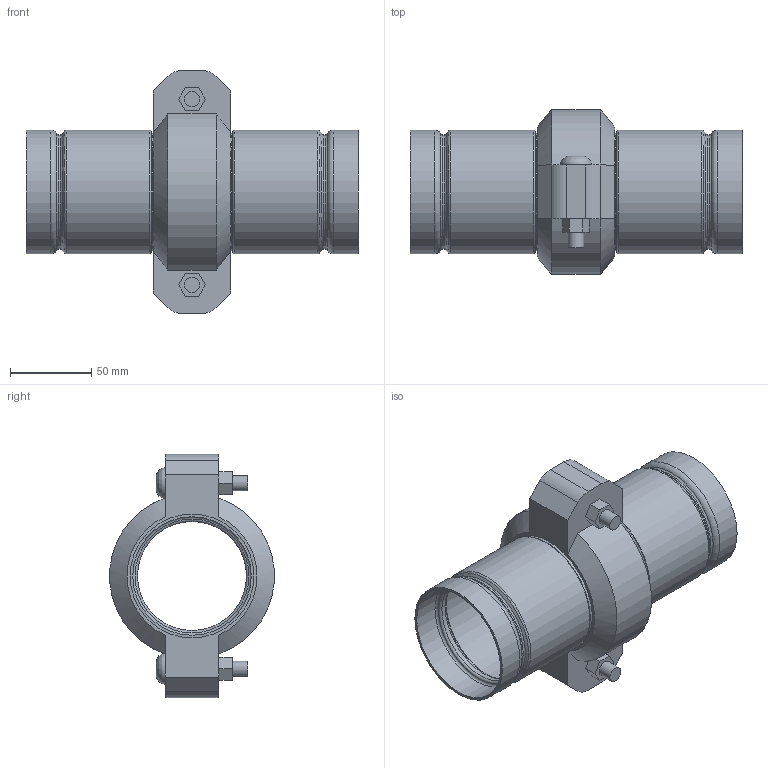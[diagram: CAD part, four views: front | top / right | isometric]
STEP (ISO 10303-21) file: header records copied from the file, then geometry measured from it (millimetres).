
FILE_DESCRIPTION(/* description */ ('VIC STRENGTHIN 100 EXPANSION JOINT 1 COUPLING COMPRESSED STYLE E155 (ST1)','CAx-IF Rec.Pracs.---Representation and Presentation of Product Manufacturing Information (PMI)---4.0---2014-10-13'),/* implementation_level */ '2;1');
FILE_NAME(/* name */ 'C:\Users\Vjadhav\AppData\Roaming\Autodesk\ApplicationPlugins\Victaulic.Temp\A42\Victaulic_SS-StrengThin 100_Expansion Joint_Compressed_1 Coupling_Style E155 (ST1)_02.5 (76.1) (65).stp',/* time_stamp */ '2021-07-23T12:24:06+06:00',/* author */ ('kkamble'),/* organization */ ('Victaulic'),/* preprocessor_version */ 'ST-DEVELOPER v17.2',/* originating_system */ 'Autodesk Inventor 2019',/* authorisation */ '');
FILE_SCHEMA (('AP242_MANAGED_MODEL_BASED_3D_ENGINEERING_MIM_LF { 1 0 10303 442 1 1 4 }'));
Length unit declared in the file: inch
Products named in the file (3): E155-02.5 (76.1); E494G-02.5 (76.1); 075-02.5 (76.1)
Assembly tree (3 placements, depth 2):
  E155-02.5 (76.1)
    E494G-02.5 (76.1)  x2
    075-02.5 (76.1)
Bounding box: 204.47 x 101.25 x 149.86 mm (x, y, z)
Volume: 300188.3 mm3; surface area: 144529.1 mm2
Topology: 3 solids, 5 shells, 121 faces, 353 edges, 254 vertices
Faces by surface type: plane 46, cylinder 33, torus 32, cone 8, bspline 2
Full cylindrical faces by diameter (mm): 9.525 x4, 11.43 x2, 67.158 x2, 69.063 x2, 70.358 x2, 72.263 x2, 73 x6, 76.2 x7
Entity records: 3197 total; most frequent: CARTESIAN_POINT 600, DIRECTION 553, ORIENTED_EDGE 484, EDGE_CURVE 242, AXIS2_PLACEMENT_3D 230, VERTEX_POINT 171, CIRCLE 139, EDGE_LOOP 103
